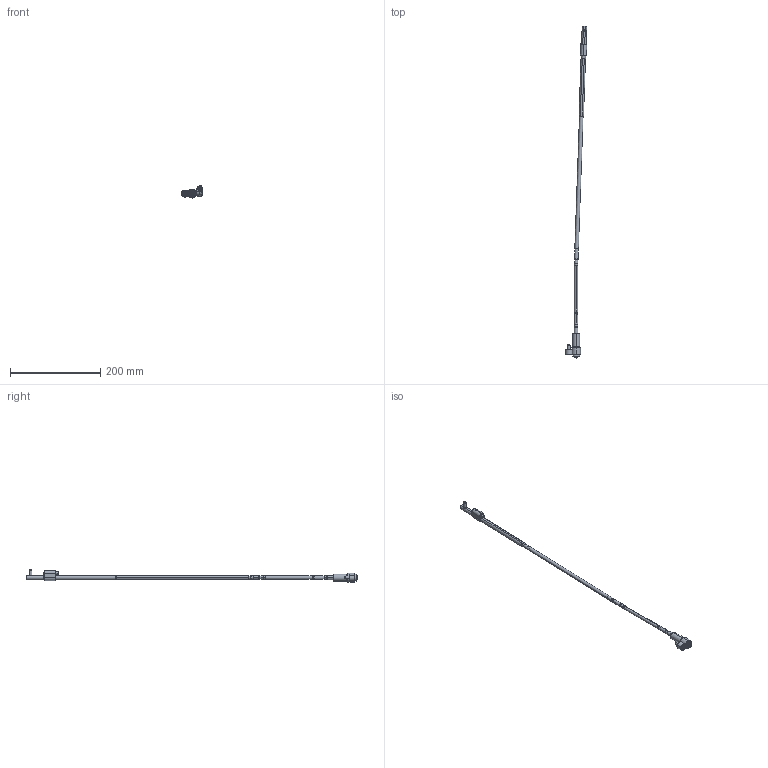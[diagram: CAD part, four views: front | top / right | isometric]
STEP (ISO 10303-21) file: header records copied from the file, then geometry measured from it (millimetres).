
FILE_DESCRIPTION (( 'STEP AP214' ), '1' );
FILE_NAME ('WL080100L-INJ 2°.STEP', '2021-03-19T15:26:16', ( '' ), ( '' ), 'SwSTEP 2.0', 'SolidWorks 2019', '' );
FILE_SCHEMA (( 'AUTOMOTIVE_DESIGN' ));
Length unit declared in the file: millimetre
Products named in the file (17): WL080100-D; WL080100-B1_WL0800FF-1; 9DR2206-TOR; Web-WP08-1; WL080100-C; 1DIN912616_DIN 912 M6 x 16 --- 16C; Web-WL08-A3; Web-WL08XX-A7_OFF-WL080100-2; Web-WL08-F01; 1DIN912545_DIN 912 M5 x 50 --- 50C; 3IMAN4X2-150_con sello; Web-WL08-F00.SLDPRT; Web-WL08-A1; WL080100-B_WL0800FF; Web-WL08-A2; WL080100L-INJ 2°; WL080100-E
Assembly tree (16 placements, depth 3):
  WL080100L-INJ 2°
    Web-WP08-1
    Web-WL08XX-A7_OFF-WL080100-2
    Web-WL08-A3
    Web-WL08-A2
    Web-WL08-A1
    WL080100-D
    WL080100-C
    WL080100-B_WL0800FF
      WL080100-B1_WL0800FF-1
      3IMAN4X2-150_con sello
    WL080100-E
    9DR2206-TOR
    Web-WL08-F00.SLDPRT
      Web-WL08-F01
      1DIN912545_DIN 912 M5 x 50 --- 50C
      1DIN912616_DIN 912 M6 x 16 --- 16C
Bounding box: 47.46 x 736.84 x 26.9 mm (x, y, z)
Volume: 57313.6 mm3; surface area: 33636.1 mm2
Topology: 15 solids, 15 shells, 424 faces, 888 edges, 516 vertices
Faces by surface type: plane 132, cylinder 128, cone 116, torus 48
Entity records: 13492 total; most frequent: DIRECTION 2218, CARTESIAN_POINT 2045, ORIENTED_EDGE 1756, AXIS2_PLACEMENT_3D 921, EDGE_CURVE 878, VERTEX_POINT 516, CIRCLE 476, EDGE_LOOP 468
